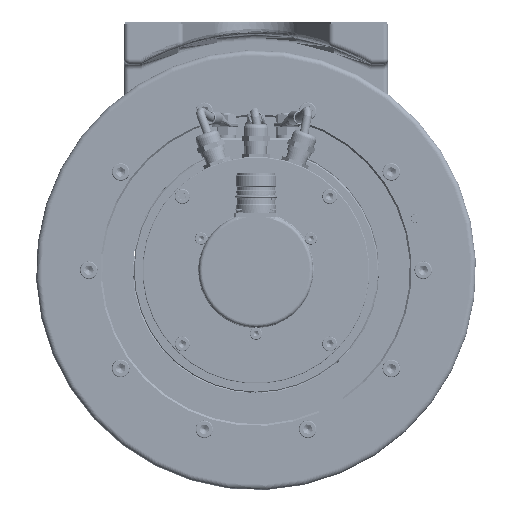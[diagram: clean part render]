
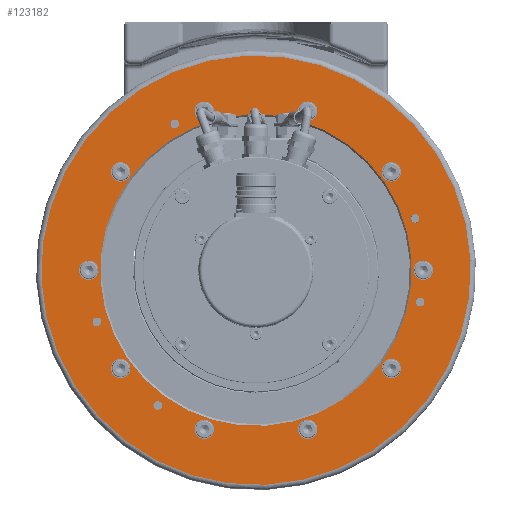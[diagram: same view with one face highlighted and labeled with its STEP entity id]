
A CAD part, front view. The second image highlights one B-rep face of the part: STEP entity #123182.
In plain terms, the highlighted planar face has unit normal (0, -1, 0).
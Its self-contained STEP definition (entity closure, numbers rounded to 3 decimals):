
#2366=FACE_BOUND('',#43542,.T.);
#2367=FACE_BOUND('',#43543,.T.);
#2368=FACE_BOUND('',#43544,.T.);
#2369=FACE_BOUND('',#43545,.T.);
#2370=FACE_BOUND('',#43546,.T.);
#2371=FACE_BOUND('',#43547,.T.);
#2372=FACE_BOUND('',#43548,.T.);
#2373=FACE_BOUND('',#43549,.T.);
#2374=FACE_BOUND('',#43550,.T.);
#2375=FACE_BOUND('',#43551,.T.);
#2376=FACE_BOUND('',#43552,.T.);
#2377=FACE_BOUND('',#43553,.T.);
#2378=FACE_BOUND('',#43554,.T.);
#2379=FACE_BOUND('',#43555,.T.);
#2380=FACE_BOUND('',#43556,.T.);
#2381=FACE_BOUND('',#43557,.T.);
#7070=PLANE('',#134438);
#36066=FACE_OUTER_BOUND('',#43541,.T.);
#43541=EDGE_LOOP('',(#109209));
#43542=EDGE_LOOP('',(#109210));
#43543=EDGE_LOOP('',(#109211));
#43544=EDGE_LOOP('',(#109212));
#43545=EDGE_LOOP('',(#109213));
#43546=EDGE_LOOP('',(#109214));
#43547=EDGE_LOOP('',(#109215));
#43548=EDGE_LOOP('',(#109216));
#43549=EDGE_LOOP('',(#109217));
#43550=EDGE_LOOP('',(#109218));
#43551=EDGE_LOOP('',(#109219));
#43552=EDGE_LOOP('',(#109220));
#43553=EDGE_LOOP('',(#109221));
#43554=EDGE_LOOP('',(#109222));
#43555=EDGE_LOOP('',(#109223));
#43556=EDGE_LOOP('',(#109224));
#43557=EDGE_LOOP('',(#109225));
#48609=CIRCLE('',#134391,122.);
#48613=CIRCLE('',#134398,2.5);
#48643=CIRCLE('',#134437,88.5);
#48644=CIRCLE('',#134439,2.459);
#48645=CIRCLE('',#134440,5.5);
#48646=CIRCLE('',#134441,5.5);
#48647=CIRCLE('',#134442,5.5);
#48648=CIRCLE('',#134443,5.5);
#48649=CIRCLE('',#134444,5.5);
#48650=CIRCLE('',#134445,5.5);
#48651=CIRCLE('',#134446,5.5);
#48652=CIRCLE('',#134447,5.5);
#48653=CIRCLE('',#134448,5.5);
#48654=CIRCLE('',#134449,5.5);
#48655=CIRCLE('',#134450,2.5);
#48656=CIRCLE('',#134451,2.459);
#48657=CIRCLE('',#134452,2.459);
#59587=VERTEX_POINT('',#218175);
#59590=VERTEX_POINT('',#218187);
#59620=VERTEX_POINT('',#218262);
#59621=VERTEX_POINT('',#218266);
#59622=VERTEX_POINT('',#218268);
#59623=VERTEX_POINT('',#218270);
#59624=VERTEX_POINT('',#218272);
#59625=VERTEX_POINT('',#218274);
#59626=VERTEX_POINT('',#218276);
#59627=VERTEX_POINT('',#218278);
#59628=VERTEX_POINT('',#218280);
#59629=VERTEX_POINT('',#218282);
#59630=VERTEX_POINT('',#218284);
#59631=VERTEX_POINT('',#218286);
#59632=VERTEX_POINT('',#218288);
#59633=VERTEX_POINT('',#218290);
#59634=VERTEX_POINT('',#218292);
#76424=EDGE_CURVE('',#59587,#59587,#48609,.T.);
#76429=EDGE_CURVE('',#59590,#59590,#48613,.T.);
#76465=EDGE_CURVE('',#59620,#59620,#48643,.T.);
#76467=EDGE_CURVE('',#59621,#59621,#48644,.T.);
#76468=EDGE_CURVE('',#59622,#59622,#48645,.T.);
#76469=EDGE_CURVE('',#59623,#59623,#48646,.T.);
#76470=EDGE_CURVE('',#59624,#59624,#48647,.T.);
#76471=EDGE_CURVE('',#59625,#59625,#48648,.T.);
#76472=EDGE_CURVE('',#59626,#59626,#48649,.T.);
#76473=EDGE_CURVE('',#59627,#59627,#48650,.T.);
#76474=EDGE_CURVE('',#59628,#59628,#48651,.T.);
#76475=EDGE_CURVE('',#59629,#59629,#48652,.T.);
#76476=EDGE_CURVE('',#59630,#59630,#48653,.T.);
#76477=EDGE_CURVE('',#59631,#59631,#48654,.T.);
#76478=EDGE_CURVE('',#59632,#59632,#48655,.T.);
#76479=EDGE_CURVE('',#59633,#59633,#48656,.T.);
#76480=EDGE_CURVE('',#59634,#59634,#48657,.T.);
#109209=ORIENTED_EDGE('',*,*,#76424,.F.);
#109210=ORIENTED_EDGE('',*,*,#76467,.T.);
#109211=ORIENTED_EDGE('',*,*,#76468,.T.);
#109212=ORIENTED_EDGE('',*,*,#76469,.T.);
#109213=ORIENTED_EDGE('',*,*,#76470,.T.);
#109214=ORIENTED_EDGE('',*,*,#76471,.T.);
#109215=ORIENTED_EDGE('',*,*,#76472,.T.);
#109216=ORIENTED_EDGE('',*,*,#76473,.T.);
#109217=ORIENTED_EDGE('',*,*,#76474,.T.);
#109218=ORIENTED_EDGE('',*,*,#76475,.T.);
#109219=ORIENTED_EDGE('',*,*,#76476,.T.);
#109220=ORIENTED_EDGE('',*,*,#76477,.T.);
#109221=ORIENTED_EDGE('',*,*,#76429,.T.);
#109222=ORIENTED_EDGE('',*,*,#76478,.T.);
#109223=ORIENTED_EDGE('',*,*,#76479,.T.);
#109224=ORIENTED_EDGE('',*,*,#76480,.T.);
#109225=ORIENTED_EDGE('',*,*,#76465,.F.);
#123182=ADVANCED_FACE('',(#36066,#2366,#2367,#2368,#2369,#2370,#2371,#2372,
#2373,#2374,#2375,#2376,#2377,#2378,#2379,#2380,#2381),#7070,.T.);
#134391=AXIS2_PLACEMENT_3D('',#218177,#166867,#166868);
#134398=AXIS2_PLACEMENT_3D('',#218188,#166882,#166883);
#134437=AXIS2_PLACEMENT_3D('',#218263,#166966,#166967);
#134438=AXIS2_PLACEMENT_3D('',#218265,#166969,#166970);
#134439=AXIS2_PLACEMENT_3D('',#218267,#166971,#166972);
#134440=AXIS2_PLACEMENT_3D('',#218269,#166973,#166974);
#134441=AXIS2_PLACEMENT_3D('',#218271,#166975,#166976);
#134442=AXIS2_PLACEMENT_3D('',#218273,#166977,#166978);
#134443=AXIS2_PLACEMENT_3D('',#218275,#166979,#166980);
#134444=AXIS2_PLACEMENT_3D('',#218277,#166981,#166982);
#134445=AXIS2_PLACEMENT_3D('',#218279,#166983,#166984);
#134446=AXIS2_PLACEMENT_3D('',#218281,#166985,#166986);
#134447=AXIS2_PLACEMENT_3D('',#218283,#166987,#166988);
#134448=AXIS2_PLACEMENT_3D('',#218285,#166989,#166990);
#134449=AXIS2_PLACEMENT_3D('',#218287,#166991,#166992);
#134450=AXIS2_PLACEMENT_3D('',#218289,#166993,#166994);
#134451=AXIS2_PLACEMENT_3D('',#218291,#166995,#166996);
#134452=AXIS2_PLACEMENT_3D('',#218293,#166997,#166998);
#166867=DIRECTION('center_axis',(0.,1.,0.));
#166868=DIRECTION('ref_axis',(0.607,0.,0.795));
#166882=DIRECTION('center_axis',(0.,1.,0.));
#166883=DIRECTION('ref_axis',(0.809,0.,-0.588));
#166966=DIRECTION('center_axis',(0.,-1.,0.));
#166967=DIRECTION('ref_axis',(-0.588,0.,-0.809));
#166969=DIRECTION('center_axis',(0.,-1.,0.));
#166970=DIRECTION('ref_axis',(-0.588,0.,-0.809));
#166971=DIRECTION('center_axis',(0.,1.,0.));
#166972=DIRECTION('ref_axis',(0.809,0.,-0.588));
#166973=DIRECTION('center_axis',(0.,1.,0.));
#166974=DIRECTION('ref_axis',(0.809,0.,-0.588));
#166975=DIRECTION('center_axis',(0.,1.,0.));
#166976=DIRECTION('ref_axis',(1.,0.,0.));
#166977=DIRECTION('center_axis',(0.,1.,0.));
#166978=DIRECTION('ref_axis',(0.309,0.,-0.951));
#166979=DIRECTION('center_axis',(0.,1.,0.));
#166980=DIRECTION('ref_axis',(-0.309,0.,-0.951));
#166981=DIRECTION('center_axis',(0.,1.,0.));
#166982=DIRECTION('ref_axis',(-0.809,0.,-0.588));
#166983=DIRECTION('center_axis',(0.,1.,0.));
#166984=DIRECTION('ref_axis',(-1.,0.,0.));
#166985=DIRECTION('center_axis',(0.,1.,0.));
#166986=DIRECTION('ref_axis',(-0.809,0.,
0.588));
#166987=DIRECTION('center_axis',(0.,1.,0.));
#166988=DIRECTION('ref_axis',(-0.309,0.,
0.951));
#166989=DIRECTION('center_axis',(0.,1.,0.));
#166990=DIRECTION('ref_axis',(0.309,0.,0.951));
#166991=DIRECTION('center_axis',(0.,1.,0.));
#166992=DIRECTION('ref_axis',(0.809,0.,0.588));
#166993=DIRECTION('center_axis',(0.,1.,0.));
#166994=DIRECTION('ref_axis',(-0.809,0.,
0.588));
#166995=DIRECTION('center_axis',(0.,1.,0.));
#166996=DIRECTION('ref_axis',(0.809,0.,-0.588));
#166997=DIRECTION('center_axis',(0.,1.,0.));
#166998=DIRECTION('ref_axis',(0.809,0.,-0.588));
#218175=CARTESIAN_POINT('',(-74.02,-48.,-100.075));
#218177=CARTESIAN_POINT('Origin',(0.,-48.,-3.096));
#218187=CARTESIAN_POINT('',(88.328,-48.,27.73));
#218188=CARTESIAN_POINT('Origin',(90.35,-48.,26.261));
#218262=CARTESIAN_POINT('',(52.019,-48.,68.502));
#218263=CARTESIAN_POINT('Origin',(0.,-48.,-3.096));
#218265=CARTESIAN_POINT('Origin',(57.309,-48.,75.783));
#218266=CARTESIAN_POINT('',(-57.829,-48.,-78.508));
#218267=CARTESIAN_POINT('Origin',(-55.84,-48.,-79.953));
#218268=CARTESIAN_POINT('',(-81.306,-48.,-55.703));
#218269=CARTESIAN_POINT('Origin',(-76.857,-48.,-58.936));
#218270=CARTESIAN_POINT('',(-34.857,-48.,-93.446));
#218271=CARTESIAN_POINT('Origin',(-29.357,-48.,-93.446));
#218272=CARTESIAN_POINT('',(-96.7,-48.,2.135));
#218273=CARTESIAN_POINT('Origin',(-95.,-48.,-3.096));
#218274=CARTESIAN_POINT('',(-75.157,-48.,57.974));
#218275=CARTESIAN_POINT('Origin',(-76.857,-48.,52.744));
#218276=CARTESIAN_POINT('',(-24.907,-48.,90.487));
#218277=CARTESIAN_POINT('Origin',(-29.357,-48.,87.254));
#218278=CARTESIAN_POINT('',(34.857,-48.,87.254));
#218279=CARTESIAN_POINT('Origin',(29.357,-48.,87.254));
#218280=CARTESIAN_POINT('',(81.306,-48.,49.511));
#218281=CARTESIAN_POINT('Origin',(76.857,-48.,52.744));
#218282=CARTESIAN_POINT('',(96.7,-48.,-8.327));
#218283=CARTESIAN_POINT('Origin',(95.,-48.,-3.096));
#218284=CARTESIAN_POINT('',(75.157,-48.,-64.166));
#218285=CARTESIAN_POINT('Origin',(76.857,-48.,-58.936));
#218286=CARTESIAN_POINT('',(24.907,-48.,-96.679));
#218287=CARTESIAN_POINT('Origin',(29.357,-48.,-93.446));
#218288=CARTESIAN_POINT('',(-88.328,-48.,-33.922));
#218289=CARTESIAN_POINT('Origin',(-90.35,-48.,-32.453));
#218290=CARTESIAN_POINT('',(91.266,-48.,-19.778));
#218291=CARTESIAN_POINT('Origin',(93.255,-48.,-21.223));
#218292=CARTESIAN_POINT('',(-48.046,-48.,81.438));
#218293=CARTESIAN_POINT('Origin',(-46.057,-48.,79.993));
